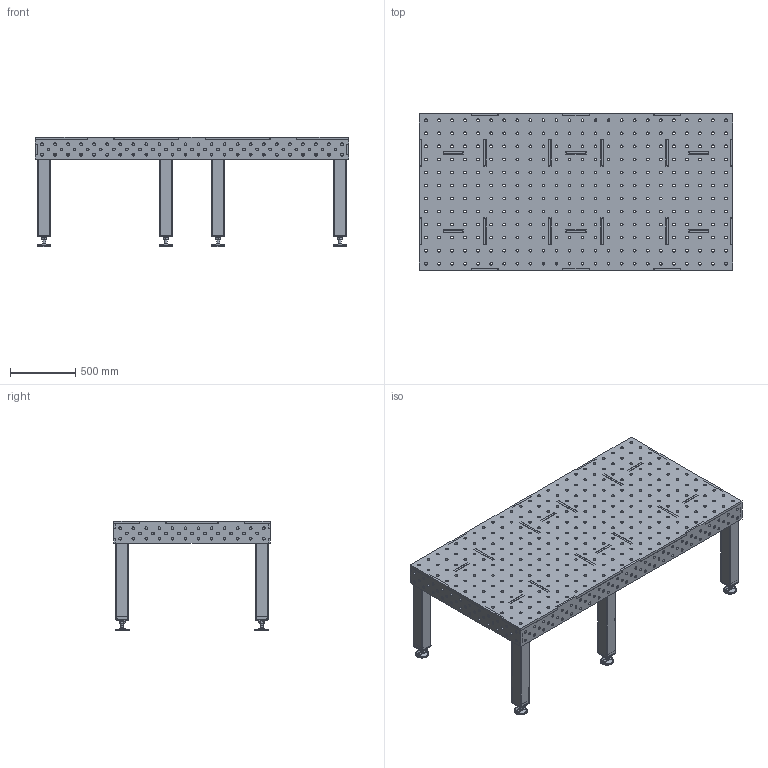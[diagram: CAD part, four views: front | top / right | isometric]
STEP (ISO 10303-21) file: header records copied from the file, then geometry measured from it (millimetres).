
FILE_DESCRIPTION(/* description */ (''),/* implementation_level */ '2;1');
FILE_NAME(/* name */ 'C:\Users\чистоввв\MailCloud2\ГидробурыАдаптеры\СВС.01.00.00 СБ - Стол сварочный (2018-08-01).stp',/* time_stamp */ '2018-08-01T14:02:17+05:00',/* author */ ('чистоввв'),/* organization */ (''),/* preprocessor_version */ 'ST-DEVELOPER v16.5',/* originating_system */ 'Autodesk Inventor 2017',/* authorisation */ '');
FILE_SCHEMA (('AUTOMOTIVE_DESIGN { 1 0 10303 214 3 1 1 }'));
Length unit declared in the file: millimetre
Products named in the file (11): СВС.01.00.00 СБ - \X2\0421
0442043E043B\X0\ сварочный; СВС.01.01.02; СВС.01.00.03; СВС.01.00.04; СВС.01.00.05; СВС.01.00.01; СВС.01.01.00 СБ; СВС.01.01.01; СВС.01.01.02_1; Опора \X2\04320438043D0442043E0432
0430044F\X0\; Гайка M24-6H \X2\0413041E04210422
\X0\ 5915-70
Assembly tree (31 placements, depth 3):
  СВС.01.00.00 СБ - \X2\0421
0442043E043B\X0\ сварочный
    СВС.01.01.02  x2
    СВС.01.00.03  x2
    СВС.01.00.04  x4
    СВС.01.00.05  x2
    СВС.01.00.01
    СВС.01.01.00 СБ  x6
      СВС.01.01.01
      СВС.01.01.02_1
    Опора \X2\04320438043D0442043E0432
0430044F\X0\  x6
    Гайка M24-6H \X2\0413041E04210422
\X0\ 5915-70  x6
Bounding box: 2400 x 1200 x 842.42 mm (x, y, z)
Volume: 98756103.9 mm3; surface area: 14578553.9 mm2
Topology: 35 solids, 35 shells, 1566 faces, 4266 edges, 2824 vertices
Faces by surface type: plane 772, cylinder 680, cone 72, torus 30, sphere 12
Full cylindrical faces by diameter (mm): 11 x12, 12 x6, 14 x6, 20.752 x12, 21 x500, 24 x6, 92 x12, 102 x6
Entity records: 24658 total; most frequent: CARTESIAN_POINT 4228, DIRECTION 4078, ORIENTED_EDGE 3398, EDGE_LOOP 1984, EDGE_CURVE 1699, AXIS2_PLACEMENT_3D 1641, VERTEX_POINT 1403, FACE_BOUND 1248
